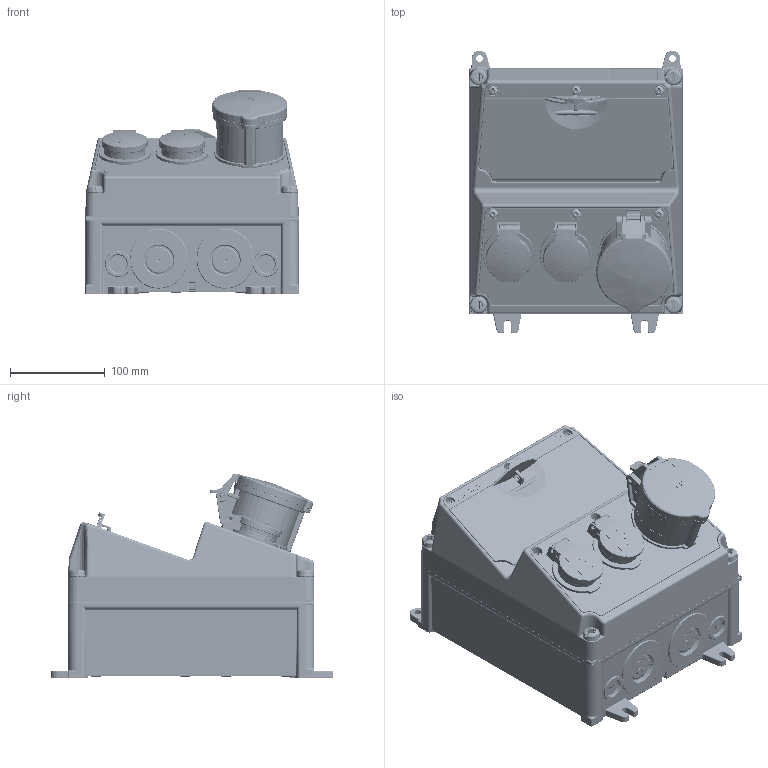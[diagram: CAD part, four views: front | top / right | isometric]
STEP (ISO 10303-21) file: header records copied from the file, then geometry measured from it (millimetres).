
FILE_DESCRIPTION((''),'2;1');
FILE_NAME('920010-1_ASM_1_ASM','2018-04-25T',('kremer'),('MENNEKES'),'PRO/ENGINEER BY PARAMETRIC TECHNOLOGY CORPORATION, 2015440','PRO/ENGINEER BY PARAMETRIC TECHNOLOGY CORPORATION, 2015440','');
FILE_SCHEMA(('AUTOMOTIVE_DESIGN { 1 0 10303 214 1 1 1 1 }'));
Products named in the file (8): 2-4_SW_O_GRAU_1; MP_FEN10_44_OBEN_GRAU_1; MP_LEER_GRAU_1; D02_SOCKEL_3POL_4_5TE_1; D01_SOCKEL_1POL_1_5TE_1; AMAXX_CEE_32_5_44_ROT_1; AMAXX_SCHUKO_44_BLAU_1; 920010-1_ASM_1_ASM
Assembly tree (8 placements, depth 2):
  920010-1_ASM_1_ASM
    2-4_SW_O_GRAU_1
    MP_FEN10_44_OBEN_GRAU_1
    MP_LEER_GRAU_1
    D02_SOCKEL_3POL_4_5TE_1
    D01_SOCKEL_1POL_1_5TE_1
    AMAXX_CEE_32_5_44_ROT_1
    AMAXX_SCHUKO_44_BLAU_1  x2
Bounding box: 225 x 298.2 x 215.76 mm (x, y, z)
Volume: 5905083.6 mm3; surface area: 744372.9 mm2
Topology: 8 solids, 8 shells, 8519 faces, 22891 edges, 14418 vertices
Faces by surface type: plane 4494, cylinder 1849, bspline 836, torus 692, cone 266, sphere 222, extrusion 160
Entity records: 354384 total; most frequent: CARTESIAN_POINT 107429, ORIENTED_EDGE 42660, DIRECTION 37096, EDGE_CURVE 21330, VERTEX_POINT 13492, VECTOR 12494, LINE 12364, AXIS2_PLACEMENT_3D 12301
